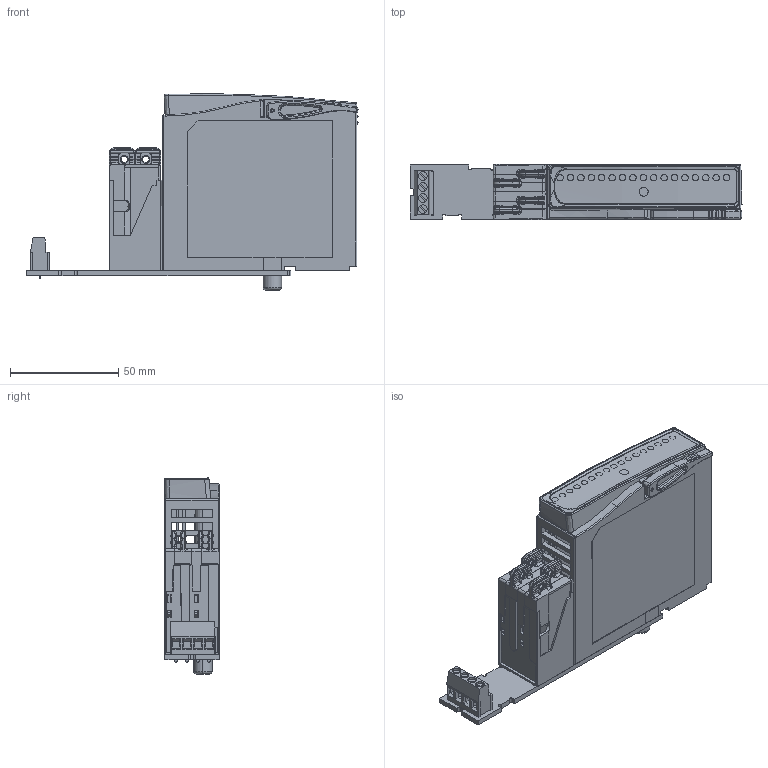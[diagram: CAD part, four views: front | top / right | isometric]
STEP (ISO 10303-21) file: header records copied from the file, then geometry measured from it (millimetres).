
FILE_DESCRIPTION((''),'2;1');
FILE_NAME('AO2_FUSED_IGESFILE','2012-04-11T',('chrisloe'),(''),'PRO/ENGINEER BY PARAMETRIC TECHNOLOGY CORPORATION, 2010180','PRO/ENGINEER BY PARAMETRIC TECHNOLOGY CORPORATION, 2010180','');
FILE_SCHEMA(('CONFIG_CONTROL_DESIGN'));
Products named in the file (1): AO2_FUSED_IGESFILE
Bounding box: 153.1 x 25.3 x 90.46 mm (x, y, z)
Volume: 66018.8 mm3; surface area: 85089.4 mm2
Topology: 1 solids, 5 shells, 6012 faces, 16385 edges, 10376 vertices
Faces by surface type: plane 3777, cylinder 1267, torus 312, bspline 274, sphere 201, cone 177, extrusion 4
Entity records: 201377 total; most frequent: CARTESIAN_POINT 51874, ORIENTED_EDGE 32746, DIRECTION 28917, EDGE_CURVE 16373, VECTOR 11475, LINE 11471, VERTEX_POINT 10376, AXIS2_PLACEMENT_3D 8721
